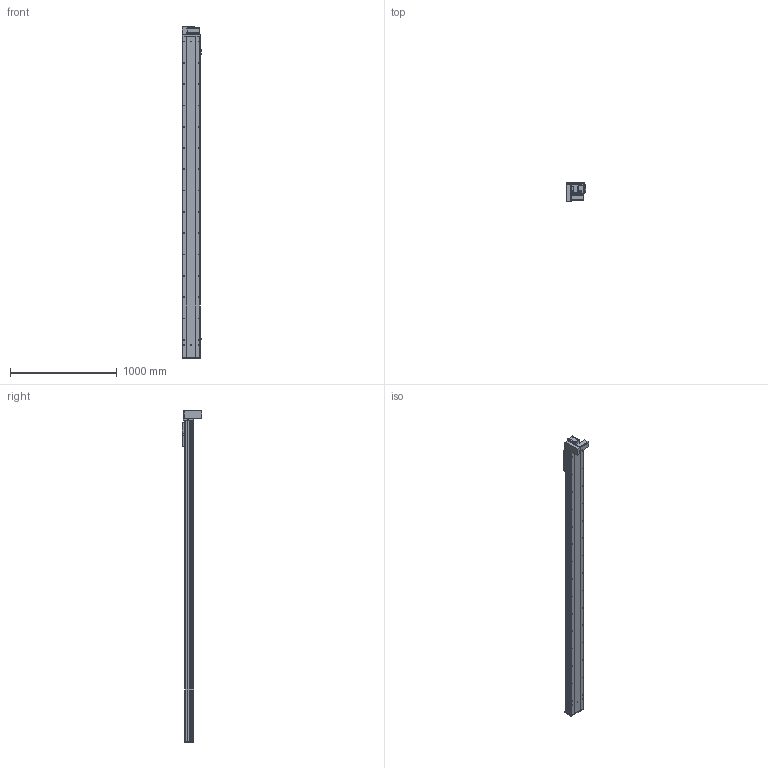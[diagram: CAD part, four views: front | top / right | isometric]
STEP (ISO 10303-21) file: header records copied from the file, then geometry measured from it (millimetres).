
FILE_DESCRIPTION (( 'STEP AP203' ), '1' );
FILE_NAME ('Y170CB-D105-S2700-BM-P400W.STEP', '2020-02-20T07:48:33', ( '微软用户' ), ( '微软中国' ), 'SwSTEP 2.0', 'SolidWorks 2017', '' );
FILE_SCHEMA (( 'CONFIG_CONTROL_DESIGN' ));
Length unit declared in the file: millimetre
Products named in the file (18): 70B喘謫眊----; 70C-雄赽釱-奻-; B-源倛裔啣; Y170CB-D105-S2700-BM-P400W; 0C--雄赽釱俋欶-170; 0B-萇儂楊擘啣; 70CB-詩湍--; san松下电机400不带刹车----; Y100-135俋离換覜ん--; 70CB-掛极-; Y170CB-陔俋离換覜結え---; --70CB --喘謫眊楊擘啣-; Y1埴倛裔; 70CB-耜裔啣-; 17B-耜蚾蟀諉啣----; 70C--詩湍揤踡え-; 00B-俋欶BM--163; 70CB--耜裔
Assembly tree (21 placements, depth 2):
  Y170CB-D105-S2700-BM-P400W
    B-源倛裔啣
    0B-萇儂楊擘啣
    san松下电机400不带刹车----
    70CB-掛极-
    --70CB --喘謫眊楊擘啣-
    70CB-耜裔啣-  x2
    70C--詩湍揤踡え-  x2
    70CB--耜裔
    70C-雄赽釱-奻-
    0C--雄赽釱俋欶-170
    70CB-詩湍--
    Y100-135俋离換覜ん--  x3
    Y170CB-陔俋离換覜結え---
    Y1埴倛裔
    17B-耜蚾蟀諉啣----
    00B-俋欶BM--163
    70B喘謫眊----
Bounding box: 183.5 x 184 x 3116 mm (x, y, z)
Volume: 13232389.1 mm3; surface area: 4781161.5 mm2
Topology: 21 solids, 21 shells, 1079 faces, 2909 edges, 1930 vertices
Faces by surface type: cylinder 593, plane 462, cone 24
Entity records: 34664 total; most frequent: CARTESIAN_POINT 6396, DIRECTION 5642, ORIENTED_EDGE 5300, EDGE_CURVE 2650, AXIS2_PLACEMENT_3D 2088, VERTEX_POINT 1760, LINE 1466, VECTOR 1466
